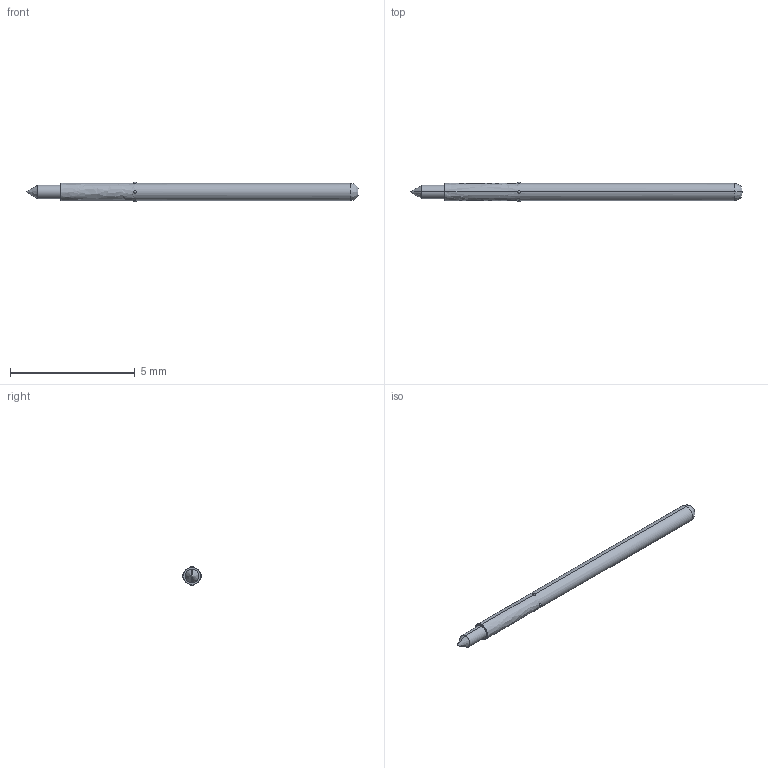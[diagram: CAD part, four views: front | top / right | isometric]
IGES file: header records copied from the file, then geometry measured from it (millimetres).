
Start section: SolidWorks IGES file using analytic representation for surfaces
Global section: file name: O:\PYLON\IGES FILES\P2662B\P2662B-1C1S REC'D.IGS; native system: SolidWorks 2015; preprocessor: SolidWorks 2015; author: kgolden; date: 171019.092711; units: inch
Bounding box: 13.3 x 0.79 x 0.79 mm (x, y, z)
Surface area: 30.5 mm2 (no closed solid volume)
Topology: 0 solids, 0 shells, 20 faces, 184 edges, 166 vertices
Faces by surface type: revolution 16, bspline 4
